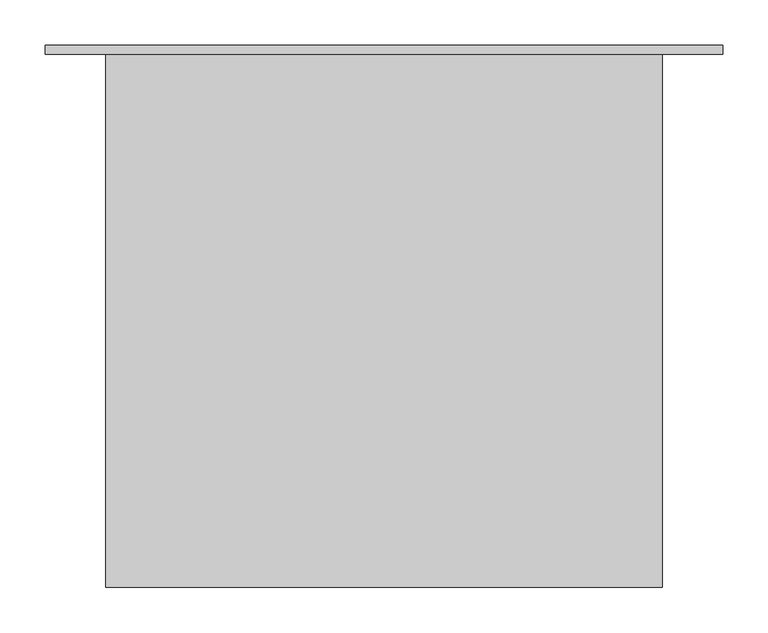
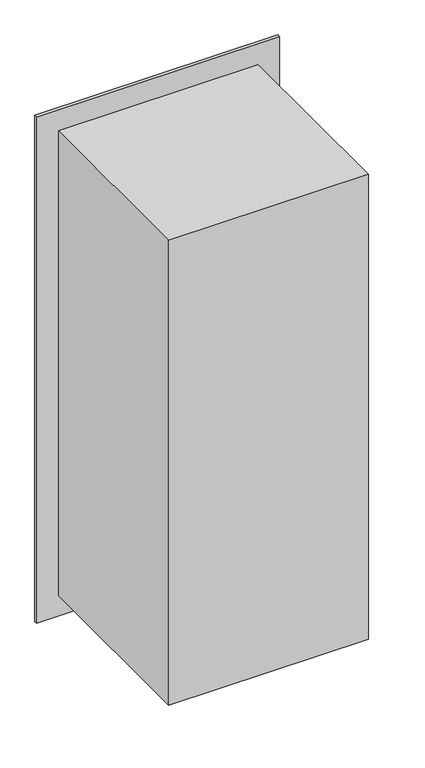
"""IFC4 building model written with IfcOpenShell, lengths in millimetres: proxy geometry, 600x1500 Manway Riser."""

from ifc_helpers import new_model, si_unit, origin, place, context, project, spatial, faceted_brep, source, transform, mapped, element, save


def generic_models_b990888b(model_context):
    return source(origin(), model_context, "Body", "Brep", [
        faceted_brep([(308.0, -600.0, -758.0), (308.0, -600.0, 758.0), (-308.0, -600.0, 758.0), (-308.0, -600.0, -758.0), (375.0, 0.0, -825.0), (-375.0, 0.0, -825.0), (-375.0, 0.0, 825.0), (375.0, 0.0, 825.0), (-308.0, -10.0, -758.0), (308.0, -10.0, -758.0), (-375.0, -10.0, -825.0), (375.0, -10.0, -825.0), (375.0, -10.0, 825.0), (-375.0, -10.0, 825.0), (-308.0, -10.0, 758.0), (308.0, -10.0, 758.0)], [[[0, 1, 2, 3]], [[4, 5, 6, 7]], [[0, 3, 8, 9]], [[10, 11, 12, 13], [9, 8, 14, 15]], [[3, 2, 14, 8]], [[2, 1, 15, 14]], [[0, 9, 15, 1]], [[5, 4, 11, 10]], [[6, 5, 10, 13]], [[7, 6, 13, 12]], [[4, 7, 12, 11]]]),
    ])


if __name__ == "__main__":
    model = new_model("IFC4")
    model_context = context("Model", 3, world=origin())
    ifc_project = project(units=[si_unit("LENGTHUNIT", "METRE", prefix="MILLI")], contexts=[model_context])
    site = spatial("IfcSite", under=ifc_project)
    building = spatial("IfcBuilding", under=site)
    placement = place(None, origin())
    generic_models_shape = generic_models_b990888b(model_context)
    element("IfcBuildingElementProxy", 1, Name="600x1500 Manway Riser", ObjectType="600x1500 Manway Riser", at=placement, inside=building, context=model_context, shape_type="MappedRepresentation", body=[
        mapped(generic_models_shape, transform((0.0, 0.0, 0.0), x_axis=(1.0, 0.0, 0.0), y_axis=(0.0, 1.0, 0.0), z_axis=(0.0, 0.0, 1.0))),
    ])
    save(model, "model.ifc")
